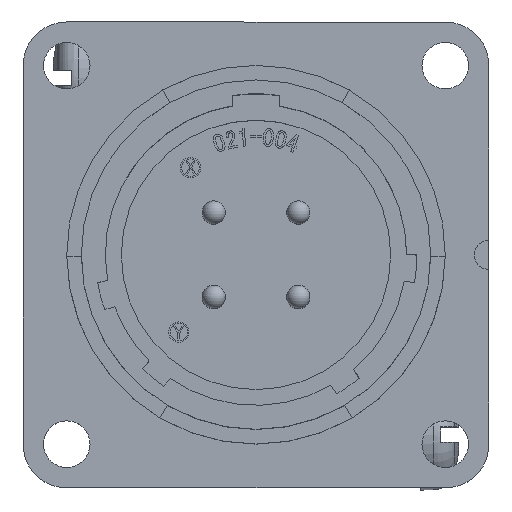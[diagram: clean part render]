
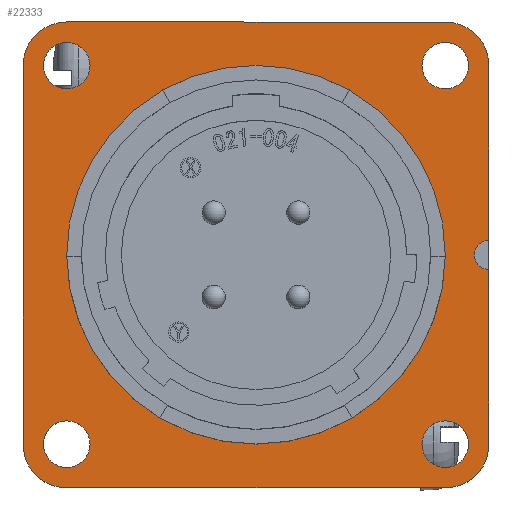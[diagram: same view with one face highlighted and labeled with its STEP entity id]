
A CAD part, top view. The second image highlights one B-rep face of the part: STEP entity #22333.
In plain terms, the highlighted planar face has unit normal (0, 0, 1).
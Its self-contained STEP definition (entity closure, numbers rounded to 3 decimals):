
#23 = CARTESIAN_POINT ( 'NONE',  ( 13., 14.6, -10.5 ) ) ;
#106 = DIRECTION ( 'NONE',  ( -1., 0., 0. ) ) ;
#217 = CARTESIAN_POINT ( 'NONE',  ( -13., 13., -10.5 ) ) ;
#313 = CARTESIAN_POINT ( 'NONE',  ( -13., -16., -10.5 ) ) ;
#317 = CARTESIAN_POINT ( 'NONE',  ( -13., -13., -10.5 ) ) ;
#763 = CIRCLE ( 'NONE', #2808, 3. ) ;
#990 = ORIENTED_EDGE ( 'NONE', *, *, #22117, .T. ) ;
#1027 = DIRECTION ( 'NONE',  ( -1., 0., 0. ) ) ;
#1410 = ORIENTED_EDGE ( 'NONE', *, *, #12726, .T. ) ;
#1470 = CARTESIAN_POINT ( 'NONE',  ( -13., 0., -10.5 ) ) ;
#1750 = VERTEX_POINT ( 'NONE', #15775 ) ;
#1788 = EDGE_CURVE ( 'NONE', #2880, #2880, #16868, .T. ) ;
#2042 = AXIS2_PLACEMENT_3D ( 'NONE', #10301, #12193, #5281 ) ;
#2591 = VERTEX_POINT ( 'NONE', #1470 ) ;
#2609 = CARTESIAN_POINT ( 'NONE',  ( -13., -14.6, -10.5 ) ) ;
#2629 = DIRECTION ( 'NONE',  ( -1., 0., 0. ) ) ;
#2667 = ORIENTED_EDGE ( 'NONE', *, *, #9852, .F. ) ;
#2808 = AXIS2_PLACEMENT_3D ( 'NONE', #21803, #16346, #1027 ) ;
#2869 = CARTESIAN_POINT ( 'NONE',  ( 13., 13., -10.5 ) ) ;
#2880 = VERTEX_POINT ( 'NONE', #2609 ) ;
#2952 = VERTEX_POINT ( 'NONE', #5429 ) ;
#3137 = CIRCLE ( 'NONE', #9796, 1.6 ) ;
#3229 = CARTESIAN_POINT ( 'NONE',  ( 14.6, -13., -10.5 ) ) ;
#3297 = DIRECTION ( 'NONE',  ( -1., 0., 0. ) ) ;
#3629 = ORIENTED_EDGE ( 'NONE', *, *, #4792, .F. ) ;
#3703 = LINE ( 'NONE', #13390, #18893 ) ;
#3961 = ORIENTED_EDGE ( 'NONE', *, *, #15583, .T. ) ;
#4048 = LINE ( 'NONE', #21347, #8885 ) ;
#4305 = DIRECTION ( 'NONE',  ( 0., 0., -1. ) ) ;
#4338 = EDGE_CURVE ( 'NONE', #8141, #5107, #15187, .T. ) ;
#4447 = ORIENTED_EDGE ( 'NONE', *, *, #13879, .F. ) ;
#4517 = AXIS2_PLACEMENT_3D ( 'NONE', #317, #12437, #5712 ) ;
#4621 = EDGE_LOOP ( 'NONE', ( #8770 ) ) ;
#4792 = EDGE_CURVE ( 'NONE', #5516, #18442, #4048, .T. ) ;
#4799 = DIRECTION ( 'NONE',  ( 1., 0., 0. ) ) ;
#5107 = VERTEX_POINT ( 'NONE', #20477 ) ;
#5281 = DIRECTION ( 'NONE',  ( 0., -1., 0. ) ) ;
#5429 = CARTESIAN_POINT ( 'NONE',  ( 16., 1., -10.5 ) ) ;
#5516 = VERTEX_POINT ( 'NONE', #9099 ) ;
#5712 = DIRECTION ( 'NONE',  ( -1., 0., 0. ) ) ;
#5960 = CIRCLE ( 'NONE', #14558, 13. ) ;
#6395 = DIRECTION ( 'NONE',  ( 0., 0., 1. ) ) ;
#6469 = CARTESIAN_POINT ( 'NONE',  ( 16., 0., -10.5 ) ) ;
#6612 = CARTESIAN_POINT ( 'NONE',  ( -14.6, 13., -10.5 ) ) ;
#7091 = LINE ( 'NONE', #20714, #14129 ) ;
#7433 = ORIENTED_EDGE ( 'NONE', *, *, #4338, .T. ) ;
#7542 = VECTOR ( 'NONE', #18356, 1000. ) ;
#7603 = CIRCLE ( 'NONE', #4517, 3. ) ;
#8067 = EDGE_CURVE ( 'NONE', #11194, #5107, #12140, .T. ) ;
#8141 = VERTEX_POINT ( 'NONE', #21593 ) ;
#8224 = DIRECTION ( 'NONE',  ( 0., 1., 0. ) ) ;
#8770 = ORIENTED_EDGE ( 'NONE', *, *, #1788, .T. ) ;
#8801 = FACE_BOUND ( 'NONE', #10174, .T. ) ;
#8811 = ORIENTED_EDGE ( 'NONE', *, *, #8067, .F. ) ;
#8885 = VECTOR ( 'NONE', #12853, 1000. ) ;
#9099 = CARTESIAN_POINT ( 'NONE',  ( 16., -1., -10.5 ) ) ;
#9264 = VERTEX_POINT ( 'NONE', #16288 ) ;
#9265 = AXIS2_PLACEMENT_3D ( 'NONE', #14800, #9753, #20044 ) ;
#9330 = FACE_BOUND ( 'NONE', #4621, .T. ) ;
#9465 = VECTOR ( 'NONE', #2629, 1000. ) ;
#9753 = DIRECTION ( 'NONE',  ( 0., 0., -1. ) ) ;
#9796 = AXIS2_PLACEMENT_3D ( 'NONE', #2869, #20228, #8224 ) ;
#9852 = EDGE_CURVE ( 'NONE', #8141, #9264, #3703, .T. ) ;
#10080 = ORIENTED_EDGE ( 'NONE', *, *, #16381, .T. ) ;
#10174 = EDGE_LOOP ( 'NONE', ( #14375 ) ) ;
#10301 = CARTESIAN_POINT ( 'NONE',  ( -13., -13., -10.5 ) ) ;
#10424 = VERTEX_POINT ( 'NONE', #3229 ) ;
#10618 = DIRECTION ( 'NONE',  ( 0., 0., -1. ) ) ;
#11194 = VERTEX_POINT ( 'NONE', #21563 ) ;
#11383 = CARTESIAN_POINT ( 'NONE',  ( 16., -13., -10.5 ) ) ;
#11387 = LINE ( 'NONE', #20222, #9465 ) ;
#11896 = CARTESIAN_POINT ( 'NONE',  ( 0., 0., -10.5 ) ) ;
#12140 = LINE ( 'NONE', #16428, #7542 ) ;
#12193 = DIRECTION ( 'NONE',  ( 0., 0., -1. ) ) ;
#12280 = ORIENTED_EDGE ( 'NONE', *, *, #20532, .T. ) ;
#12333 = DIRECTION ( 'NONE',  ( 0., 0., -1. ) ) ;
#12411 = DIRECTION ( 'NONE',  ( -1., 0., 0. ) ) ;
#12437 = DIRECTION ( 'NONE',  ( 0., 0., 1. ) ) ;
#12726 = EDGE_CURVE ( 'NONE', #11194, #22393, #7603, .T. ) ;
#12853 = DIRECTION ( 'NONE',  ( 0., -1., 0. ) ) ;
#12946 = AXIS2_PLACEMENT_3D ( 'NONE', #12976, #4305, #13202 ) ;
#12976 = CARTESIAN_POINT ( 'NONE',  ( 13., -13., -10.5 ) ) ;
#13202 = DIRECTION ( 'NONE',  ( 1., 0., 0. ) ) ;
#13390 = CARTESIAN_POINT ( 'NONE',  ( 0., 16., -10.5 ) ) ;
#13569 = CARTESIAN_POINT ( 'NONE',  ( -13., 13., -10.5 ) ) ;
#13652 = DIRECTION ( 'NONE',  ( 0., 0., -1. ) ) ;
#13799 = DIRECTION ( 'NONE',  ( 0., 0., 1. ) ) ;
#13816 = AXIS2_PLACEMENT_3D ( 'NONE', #13569, #13799, #22428 ) ;
#13879 = EDGE_CURVE ( 'NONE', #18694, #2952, #7091, .T. ) ;
#14129 = VECTOR ( 'NONE', #21008, 1000. ) ;
#14375 = ORIENTED_EDGE ( 'NONE', *, *, #16890, .T. ) ;
#14558 = AXIS2_PLACEMENT_3D ( 'NONE', #11896, #13652, #3297 ) ;
#14783 = AXIS2_PLACEMENT_3D ( 'NONE', #19376, #10618, #106 ) ;
#14800 = CARTESIAN_POINT ( 'NONE',  ( 13., 13., -10.5 ) ) ;
#14978 = EDGE_CURVE ( 'NONE', #1750, #22393, #11387, .T. ) ;
#15012 = CIRCLE ( 'NONE', #15057, 1.6 ) ;
#15015 = EDGE_CURVE ( 'NONE', #2952, #5516, #19550, .T. ) ;
#15018 = ORIENTED_EDGE ( 'NONE', *, *, #14978, .F. ) ;
#15057 = AXIS2_PLACEMENT_3D ( 'NONE', #217, #12333, #12411 ) ;
#15187 = CIRCLE ( 'NONE', #13816, 3. ) ;
#15372 = EDGE_CURVE ( 'NONE', #9264, #18694, #19270, .T. ) ;
#15583 = EDGE_CURVE ( 'NONE', #2591, #2591, #5960, .T. ) ;
#15774 = CARTESIAN_POINT ( 'NONE',  ( 16., 13., -10.5 ) ) ;
#15775 = CARTESIAN_POINT ( 'NONE',  ( 13., -16., -10.5 ) ) ;
#15796 = PLANE ( 'NONE',  #14783 ) ;
#15814 = EDGE_LOOP ( 'NONE', ( #12280 ) ) ;
#16288 = CARTESIAN_POINT ( 'NONE',  ( 13., 16., -10.5 ) ) ;
#16346 = DIRECTION ( 'NONE',  ( 0., 0., 1. ) ) ;
#16381 = EDGE_CURVE ( 'NONE', #1750, #18442, #763, .T. ) ;
#16428 = CARTESIAN_POINT ( 'NONE',  ( -16., 0., -10.5 ) ) ;
#16431 = ORIENTED_EDGE ( 'NONE', *, *, #15015, .F. ) ;
#16470 = ORIENTED_EDGE ( 'NONE', *, *, #15372, .F. ) ;
#16868 = CIRCLE ( 'NONE', #2042, 1.6 ) ;
#16890 = EDGE_CURVE ( 'NONE', #10424, #10424, #21361, .T. ) ;
#18065 = AXIS2_PLACEMENT_3D ( 'NONE', #6469, #6395, #18567 ) ;
#18078 = EDGE_LOOP ( 'NONE', ( #990 ) ) ;
#18356 = DIRECTION ( 'NONE',  ( 0., 1., 0. ) ) ;
#18442 = VERTEX_POINT ( 'NONE', #11383 ) ;
#18567 = DIRECTION ( 'NONE',  ( 1., 0., 0. ) ) ;
#18694 = VERTEX_POINT ( 'NONE', #15774 ) ;
#18893 = VECTOR ( 'NONE', #4799, 1000. ) ;
#19146 = FACE_BOUND ( 'NONE', #18078, .T. ) ;
#19270 = CIRCLE ( 'NONE', #9265, 3. ) ;
#19376 = CARTESIAN_POINT ( 'NONE',  ( 0., 16., -10.5 ) ) ;
#19550 = CIRCLE ( 'NONE', #18065, 1. ) ;
#19687 = FACE_BOUND ( 'NONE', #15814, .T. ) ;
#20044 = DIRECTION ( 'NONE',  ( -1., 0., 0. ) ) ;
#20222 = CARTESIAN_POINT ( 'NONE',  ( 0., -16., -10.5 ) ) ;
#20228 = DIRECTION ( 'NONE',  ( 0., 0., -1. ) ) ;
#20233 = FACE_BOUND ( 'NONE', #21961, .T. ) ;
#20235 = VERTEX_POINT ( 'NONE', #23 ) ;
#20477 = CARTESIAN_POINT ( 'NONE',  ( -16., 13., -10.5 ) ) ;
#20532 = EDGE_CURVE ( 'NONE', #22112, #22112, #15012, .T. ) ;
#20714 = CARTESIAN_POINT ( 'NONE',  ( 16., 0., -10.5 ) ) ;
#20773 = FACE_OUTER_BOUND ( 'NONE', #22459, .T. ) ;
#21008 = DIRECTION ( 'NONE',  ( 0., -1., 0. ) ) ;
#21347 = CARTESIAN_POINT ( 'NONE',  ( 16., 0., -10.5 ) ) ;
#21361 = CIRCLE ( 'NONE', #12946, 1.6 ) ;
#21563 = CARTESIAN_POINT ( 'NONE',  ( -16., -13., -10.5 ) ) ;
#21593 = CARTESIAN_POINT ( 'NONE',  ( -13., 16., -10.5 ) ) ;
#21803 = CARTESIAN_POINT ( 'NONE',  ( 13., -13., -10.5 ) ) ;
#21961 = EDGE_LOOP ( 'NONE', ( #3961 ) ) ;
#22112 = VERTEX_POINT ( 'NONE', #6612 ) ;
#22117 = EDGE_CURVE ( 'NONE', #20235, #20235, #3137, .T. ) ;
#22333 = ADVANCED_FACE ( 'NONE', ( #20773, #20233, #19687, #19146, #8801, #9330 ), #15796, .F. ) ;
#22393 = VERTEX_POINT ( 'NONE', #313 ) ;
#22428 = DIRECTION ( 'NONE',  ( -1., 0., 0. ) ) ;
#22459 = EDGE_LOOP ( 'NONE', ( #3629, #16431, #4447, #16470, #2667, #7433, #8811, #1410, #15018, #10080 ) ) ;
